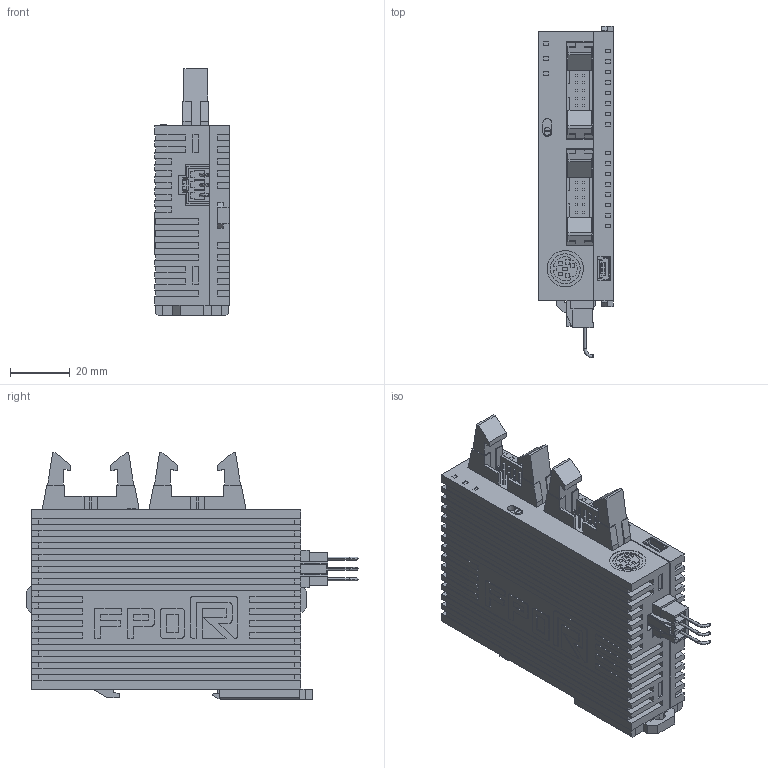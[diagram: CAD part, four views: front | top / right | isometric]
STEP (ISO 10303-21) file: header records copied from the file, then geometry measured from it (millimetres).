
FILE_DESCRIPTION (( 'STEP AP203' ), '1' );
FILE_NAME ('afp0rc16t.STEP', '2013-06-28T04:21:13', ( 'sunx' ), ( 'sunx' ), 'SwSTEP 2.0', 'SolidWorks 2010', '' );
FILE_SCHEMA (( 'CONFIG_CONTROL_DESIGN' ));
Length unit declared in the file: millimetre
Products named in the file (1): afp0rc16t
Bounding box: 25 x 111.2 x 82.7 mm (x, y, z)
Volume: 137052.7 mm3; surface area: 30462.5 mm2
Topology: 1 solids, 1 shells, 1002 faces, 2700 edges, 1784 vertices
Faces by surface type: plane 935, cylinder 61, torus 6
Entity records: 30872 total; most frequent: CARTESIAN_POINT 5487, ORIENTED_EDGE 5400, DIRECTION 4833, EDGE_CURVE 2700, LINE 2573, VECTOR 2573, VERTEX_POINT 1784, AXIS2_PLACEMENT_3D 1130
